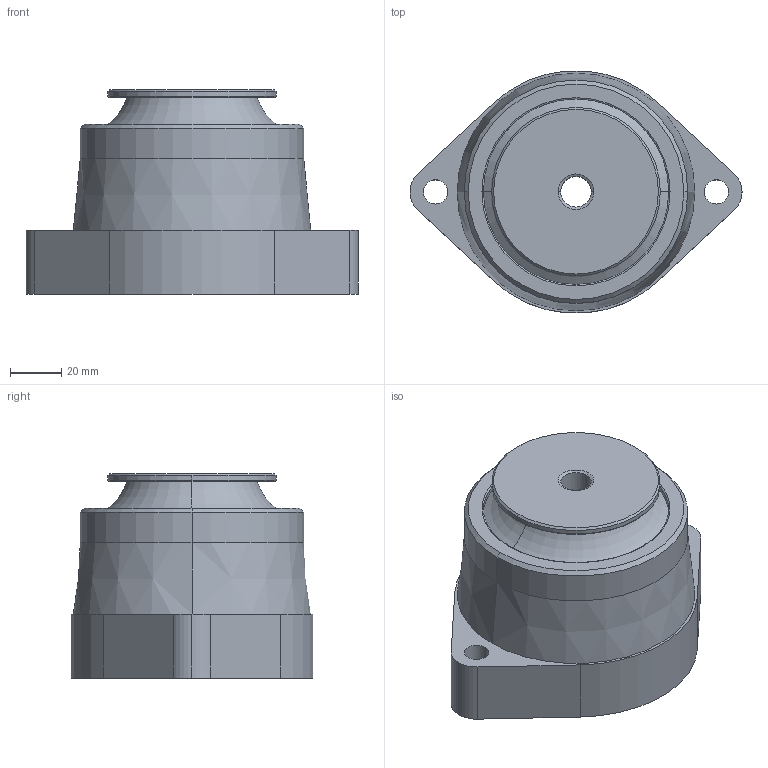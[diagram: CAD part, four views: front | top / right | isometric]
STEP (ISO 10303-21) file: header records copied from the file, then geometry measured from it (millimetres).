
FILE_DESCRIPTION(('STEP AP214'),'1');
FILE_NAME('U:/Inhalte (Daten)/Content neue Seite/CAD Files/EluFlex_90_ZDMF_111115.stp','2015-11-11T16:05:51',(' '),(' '),'Spatial InterOp 3D',' ',' ');
FILE_SCHEMA(('automotive_design'));
Length unit declared in the file: millimetre
Products named in the file (1): 1
Bounding box: 130 x 94.67 x 80 mm (x, y, z)
Volume: 365147.7 mm3; surface area: 63712.7 mm2
Topology: 1 solids, 2 shells, 92 faces, 196 edges, 112 vertices
Faces by surface type: cylinder 32, torus 28, cone 20, plane 12
Entity records: 2513 total; most frequent: DIRECTION 514, CARTESIAN_POINT 401, ORIENTED_EDGE 392, AXIS2_PLACEMENT_3D 225, EDGE_CURVE 196, CIRCLE 132, VERTEX_POINT 112, EDGE_LOOP 104
